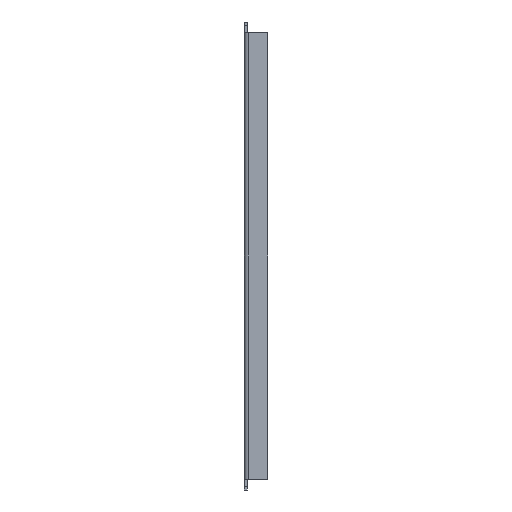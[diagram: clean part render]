
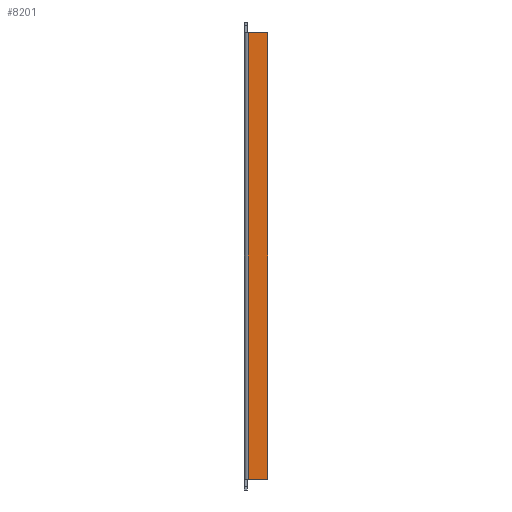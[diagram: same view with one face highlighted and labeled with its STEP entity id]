
A CAD part, left-side view. The second image highlights one B-rep face of the part: STEP entity #8201.
In plain terms, the highlighted planar face has unit normal (-1, 0, 0).
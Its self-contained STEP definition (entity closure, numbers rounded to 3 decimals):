
#4431=CARTESIAN_POINT(' ',(-134.5,-2.6,-142.5));
#4432=VERTEX_POINT(' ',#4431);
#4446=CARTESIAN_POINT(' ',(-134.5,-2.6,-142.5));
#4451=DIRECTION(' ',(0.,0.,1.));
#4456=VECTOR(' ',#4451,1.);
#4461=LINE('',#4446,#4456);
#4466=CARTESIAN_POINT(' ',(-134.5,-2.6,142.5));
#4467=VERTEX_POINT(' ',#4466);
#4471=EDGE_CURVE(' ',#4432,#4467,#4461,.T.);
#8026=CARTESIAN_POINT(' ',(-134.5,-15.,-142.5));
#8027=VERTEX_POINT(' ',#8026);
#8041=CARTESIAN_POINT(' ',(-134.5,-15.,-142.5));
#8046=DIRECTION(' ',(0.,1.,0.));
#8051=VECTOR(' ',#8046,1.);
#8056=LINE('',#8041,#8051);
#8061=EDGE_CURVE(' ',#8027,#4432,#8056,.T.);
#8091=DIRECTION(' ',(-1.,0.,0.));
#8096=CARTESIAN_POINT(' ',(-134.5,-2.6,142.5));
#8101=DIRECTION(' ',(-0.,0.,-1.));
#8106=AXIS2_PLACEMENT_3D(' ',#8096,#8091,#8101);
#8111=PLANE('NONE',#8106);
#8116=ORIENTED_EDGE(' ',*,*,#4471,.F.);
#8121=ORIENTED_EDGE(' ',*,*,#8061,.F.);
#8126=CARTESIAN_POINT(' ',(-134.5,-15.,142.5));
#8131=DIRECTION(' ',(0.,0.,-1.));
#8136=VECTOR(' ',#8131,1.);
#8141=LINE('',#8126,#8136);
#8146=CARTESIAN_POINT(' ',(-134.5,-15.,142.5));
#8147=VERTEX_POINT(' ',#8146);
#8151=EDGE_CURVE(' ',#8147,#8027,#8141,.T.);
#8156=ORIENTED_EDGE(' ',*,*,#8151,.F.);
#8161=CARTESIAN_POINT(' ',(-134.5,-2.6,142.5));
#8166=DIRECTION(' ',(0.,-1.,0.));
#8171=VECTOR(' ',#8166,1.);
#8176=LINE('',#8161,#8171);
#8181=EDGE_CURVE(' ',#4467,#8147,#8176,.T.);
#8186=ORIENTED_EDGE(' ',*,*,#8181,.F.);
#8191=EDGE_LOOP(' ',(#8116,#8121,#8156,#8186));
#8196=FACE_OUTER_BOUND(' ',#8191,.T.);
#8201=ADVANCED_FACE('NONE',(#8196),#8111,.T.);
